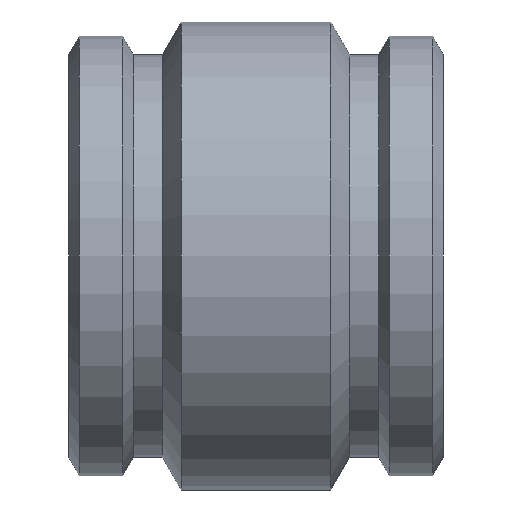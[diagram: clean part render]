
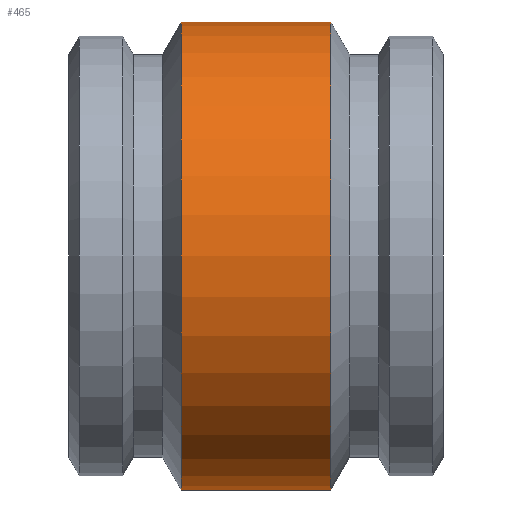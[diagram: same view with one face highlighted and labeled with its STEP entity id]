
A CAD part, front view. The second image highlights one B-rep face of the part: STEP entity #465.
In plain terms, the highlighted cylindrical face has radius 171.45 mm (diameter 342.9 mm), a full revolution.
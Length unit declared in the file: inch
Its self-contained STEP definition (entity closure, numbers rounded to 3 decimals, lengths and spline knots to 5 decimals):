
#51=CIRCLE('',#533,6.75);
#52=CIRCLE('',#534,6.75);
#53=CIRCLE('',#536,6.75);
#54=CIRCLE('',#537,6.75);
#74=CYLINDRICAL_SURFACE('',#535,6.75);
#105=FACE_OUTER_BOUND('',#139,.T.);
#139=EDGE_LOOP('',(#399,#400,#401,#402,#403,#404));
#163=LINE('',#1204,#183);
#183=VECTOR('',#661,6.75);
#231=VERTEX_POINT('',#1194);
#232=VERTEX_POINT('',#1195);
#233=VERTEX_POINT('',#1200);
#234=VERTEX_POINT('',#1201);
#290=EDGE_CURVE('',#231,#232,#51,.T.);
#291=EDGE_CURVE('',#232,#231,#52,.T.);
#293=EDGE_CURVE('',#233,#234,#53,.T.);
#294=EDGE_CURVE('',#234,#233,#54,.T.);
#295=EDGE_CURVE('',#234,#232,#163,.T.);
#399=ORIENTED_EDGE('',*,*,#293,.F.);
#400=ORIENTED_EDGE('',*,*,#294,.F.);
#401=ORIENTED_EDGE('',*,*,#295,.T.);
#402=ORIENTED_EDGE('',*,*,#291,.T.);
#403=ORIENTED_EDGE('',*,*,#290,.T.);
#404=ORIENTED_EDGE('',*,*,#295,.F.);
#465=ADVANCED_FACE('',(#105),#74,.T.);
#533=AXIS2_PLACEMENT_3D('',#1196,#650,#651);
#534=AXIS2_PLACEMENT_3D('',#1197,#652,#653);
#535=AXIS2_PLACEMENT_3D('',#1199,#655,#656);
#536=AXIS2_PLACEMENT_3D('',#1202,#657,#658);
#537=AXIS2_PLACEMENT_3D('',#1203,#659,#660);
#650=DIRECTION('center_axis',(1.,0.,0.));
#651=DIRECTION('ref_axis',(0.,0.,-1.));
#652=DIRECTION('center_axis',(1.,0.,0.));
#653=DIRECTION('ref_axis',(0.,0.,-1.));
#655=DIRECTION('center_axis',(1.,0.,0.));
#656=DIRECTION('ref_axis',(0.,1.,0.));
#657=DIRECTION('center_axis',(1.,0.,0.));
#658=DIRECTION('ref_axis',(0.,0.,-1.));
#659=DIRECTION('center_axis',(1.,0.,0.));
#660=DIRECTION('ref_axis',(0.,0.,-1.));
#661=DIRECTION('',(-1.,0.,0.));
#1194=CARTESIAN_POINT('',(-2.16,6.75,0.));
#1195=CARTESIAN_POINT('',(-2.16,-6.75,0.));
#1196=CARTESIAN_POINT('Origin',(-2.16,0.,0.));
#1197=CARTESIAN_POINT('Origin',(-2.16,0.,0.));
#1199=CARTESIAN_POINT('Origin',(0.,0.,0.));
#1200=CARTESIAN_POINT('',(2.16,6.75,0.));
#1201=CARTESIAN_POINT('',(2.16,-6.75,0.));
#1202=CARTESIAN_POINT('Origin',(2.16,0.,0.));
#1203=CARTESIAN_POINT('Origin',(2.16,0.,0.));
#1204=CARTESIAN_POINT('',(0.,-6.75,0.));
